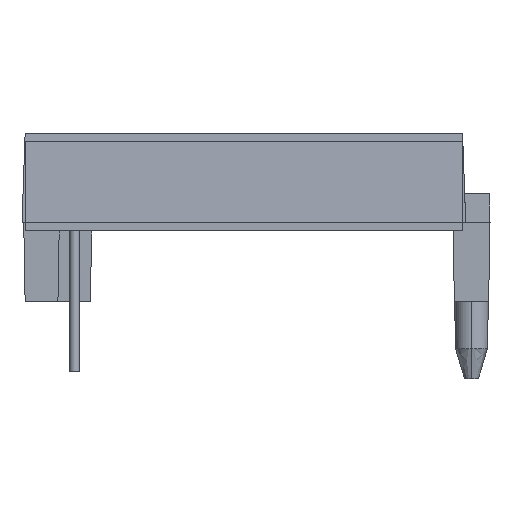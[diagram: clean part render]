
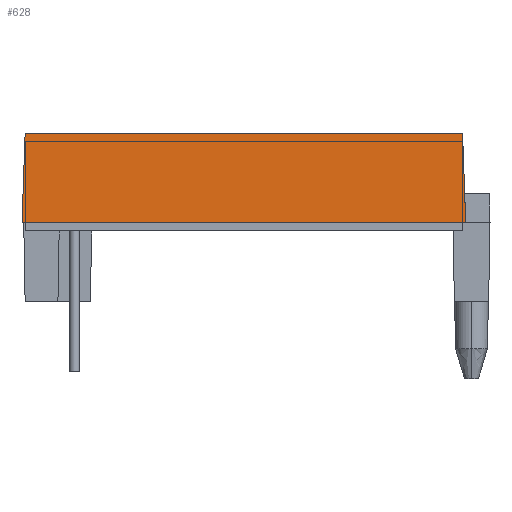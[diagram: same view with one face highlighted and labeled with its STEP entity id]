
A CAD part, left-side view. The second image highlights one B-rep face of the part: STEP entity #628.
In plain terms, the highlighted planar face has unit normal (-0.999, 0, 0.035).
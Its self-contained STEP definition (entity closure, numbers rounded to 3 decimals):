
#628=ADVANCED_FACE('',(#1393),#12640,.T.);
#1393=FACE_OUTER_BOUND('',#2159,.T.);
#2159=EDGE_LOOP('',(#3066,#3067,#3068,#3069));
#3066=ORIENTED_EDGE('',*,*,#7122,.T.);
#3067=ORIENTED_EDGE('',*,*,#7145,.F.);
#3068=ORIENTED_EDGE('',*,*,#7148,.T.);
#3069=ORIENTED_EDGE('',*,*,#7149,.T.);
#7122=EDGE_CURVE('',#11292,#11291,#9182,.T.);
#7145=EDGE_CURVE('',#11307,#11291,#9205,.T.);
#7148=EDGE_CURVE('',#11307,#11309,#9208,.T.);
#7149=EDGE_CURVE('',#11309,#11292,#9209,.T.);
#9182=B_SPLINE_CURVE_WITH_KNOTS('',1,(#17403,#17404),.UNSPECIFIED.,.F.,
 .F.,(2,2),(-26.37,0.),.UNSPECIFIED.);
#9205=B_SPLINE_CURVE_WITH_KNOTS('',1,(#17449,#17450),.UNSPECIFIED.,.F.,
 .F.,(2,2),(0.,5.306),.UNSPECIFIED.);
#9208=B_SPLINE_CURVE_WITH_KNOTS('',1,(#17455,#17456),.UNSPECIFIED.,.F.,
 .F.,(2,2),(0.,26.),.UNSPECIFIED.);
#9209=B_SPLINE_CURVE_WITH_KNOTS('',1,(#17457,#17458),.UNSPECIFIED.,.F.,
 .F.,(2,2),(0.,5.306),.UNSPECIFIED.);
#11291=VERTEX_POINT('',#16014);
#11292=VERTEX_POINT('',#16015);
#11307=VERTEX_POINT('',#16030);
#11309=VERTEX_POINT('',#16032);
#12640=PLANE('',#13401);
#13401=AXIS2_PLACEMENT_3D('',#15215,#14235,$);
#14235=DIRECTION('',(-0.999,0.,0.035));
#15215=CARTESIAN_POINT('',(-22.414,-2.292,4.17));
#16014=CARTESIAN_POINT('',(-22.395,0.345,4.7));
#16015=CARTESIAN_POINT('',(-22.395,26.715,4.7));
#16030=CARTESIAN_POINT('',(-22.21,0.53,10.));
#16032=CARTESIAN_POINT('',(-22.21,26.53,10.));
#17403=CARTESIAN_POINT('',(-22.395,26.715,4.7));
#17404=CARTESIAN_POINT('',(-22.395,0.345,4.7));
#17449=CARTESIAN_POINT('',(-22.21,0.53,10.));
#17450=CARTESIAN_POINT('',(-22.395,0.345,4.7));
#17455=CARTESIAN_POINT('',(-22.21,0.53,10.));
#17456=CARTESIAN_POINT('',(-22.21,26.53,10.));
#17457=CARTESIAN_POINT('',(-22.21,26.53,10.));
#17458=CARTESIAN_POINT('',(-22.395,26.715,4.7));
